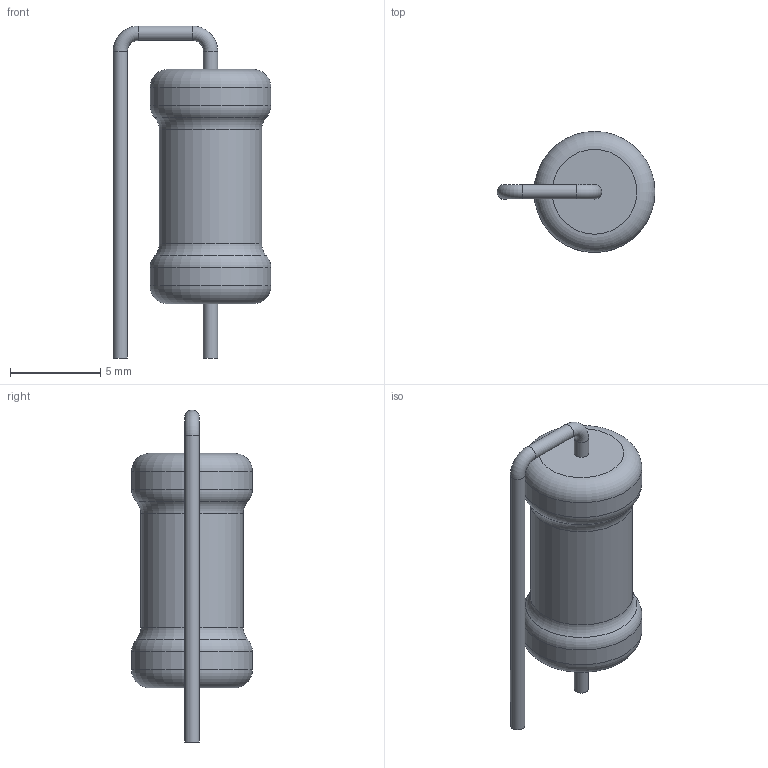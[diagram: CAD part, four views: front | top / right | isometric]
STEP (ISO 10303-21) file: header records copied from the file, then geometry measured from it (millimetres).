
FILE_DESCRIPTION(('STEP AP203'), '1');
FILE_NAME('栖闉罻', '', ('UNSPECIFIED'), ('UNSPECIFIED'), 'ASCON STEP Converter 1.6', 'ASCON Math Kernel', '');
FILE_SCHEMA(('CONFIG_CONTROL_DESIGN'));
Length unit declared in the file: millimetre
Assembly tree (1 placements, depth 2):
  (unnamed)
    (unnamed)
Bounding box: 8.75 x 6.7 x 18.4 mm (x, y, z)
Volume: 386.5 mm3; surface area: 373.6 mm2
Topology: 1 solids, 1 shells, 19 faces, 33 edges, 18 vertices
Faces by surface type: torus 8, cylinder 7, plane 4
Full cylindrical faces by diameter (mm): 0.8 x4, 5.668 x1, 6.7 x2
Entity records: 620 total; most frequent: DIRECTION 78, CARTESIAN_POINT 57, AXIS2_PLACEMENT_3D 39, EDGE_LOOP 36, ORIENTED_EDGE 36, FACE_OUTER_BOUND 30, COLOUR_RGB 20, FILL_AREA_STYLE_COLOUR 20
